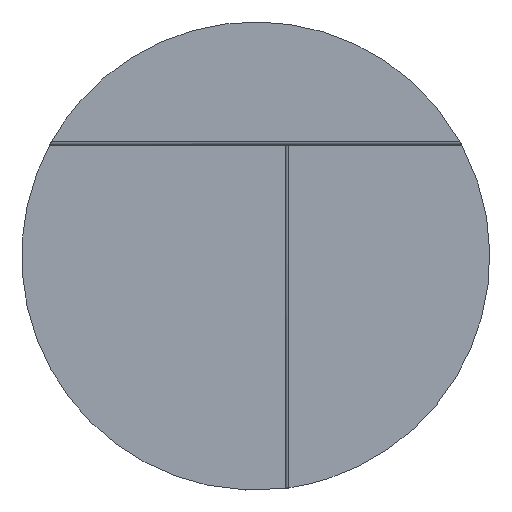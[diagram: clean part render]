
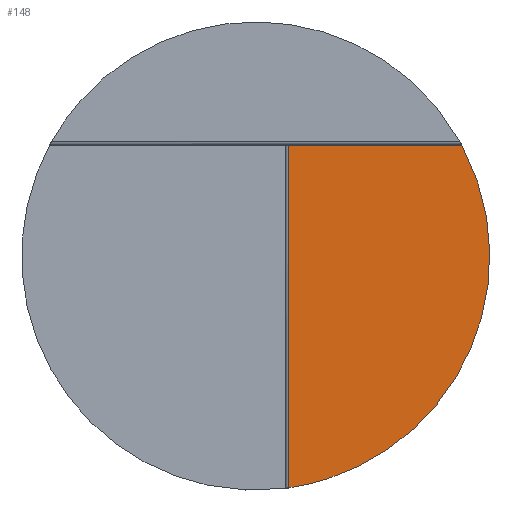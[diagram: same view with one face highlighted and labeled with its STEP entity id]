
A CAD part, top view. The second image highlights one B-rep face of the part: STEP entity #148.
In plain terms, the highlighted planar face has unit normal (0, 0, 1).
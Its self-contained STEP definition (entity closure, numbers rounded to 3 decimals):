
#148=ADVANCED_FACE('',(#253),#1800,.T.);
#253=FACE_OUTER_BOUND('',#378,.T.);
#378=EDGE_LOOP('',(#885,#886,#887,#888,#889,#890,#891,#892,#893,#894,#895));
#885=ORIENTED_EDGE('',*,*,#1168,.T.);
#886=ORIENTED_EDGE('',*,*,#1199,.F.);
#887=ORIENTED_EDGE('',*,*,#1196,.F.);
#888=ORIENTED_EDGE('',*,*,#1193,.F.);
#889=ORIENTED_EDGE('',*,*,#1190,.F.);
#890=ORIENTED_EDGE('',*,*,#1187,.F.);
#891=ORIENTED_EDGE('',*,*,#1184,.F.);
#892=ORIENTED_EDGE('',*,*,#1181,.F.);
#893=ORIENTED_EDGE('',*,*,#1178,.F.);
#894=ORIENTED_EDGE('',*,*,#1175,.F.);
#895=ORIENTED_EDGE('',*,*,#1201,.F.);
#1168=EDGE_CURVE('',#1657,#1660,#1454,.T.);
#1175=EDGE_CURVE('',#1662,#1664,#1460,.T.);
#1178=EDGE_CURVE('',#1664,#1666,#1463,.T.);
#1181=EDGE_CURVE('',#1666,#1668,#1466,.T.);
#1184=EDGE_CURVE('',#1668,#1670,#1469,.T.);
#1187=EDGE_CURVE('',#1670,#1672,#1472,.T.);
#1190=EDGE_CURVE('',#1672,#1674,#1475,.T.);
#1193=EDGE_CURVE('',#1674,#1676,#1478,.T.);
#1196=EDGE_CURVE('',#1676,#1678,#1481,.T.);
#1199=EDGE_CURVE('',#1678,#1660,#1484,.T.);
#1201=EDGE_CURVE('',#1657,#1662,#1486,.T.);
#1454=(
BOUNDED_CURVE()
B_SPLINE_CURVE(2,(#2977,#2978,#2979),.UNSPECIFIED.,.F.,.F.)
B_SPLINE_CURVE_WITH_KNOTS((3,3),(-1620.749,-1245.346),
 .UNSPECIFIED.)
CURVE()
GEOMETRIC_REPRESENTATION_ITEM()
RATIONAL_B_SPLINE_CURVE((1.,1.,1.))
REPRESENTATION_ITEM('')
);
#1460=(
BOUNDED_CURVE()
B_SPLINE_CURVE(2,(#2994,#2995,#2996),.UNSPECIFIED.,.F.,.F.)
B_SPLINE_CURVE_WITH_KNOTS((3,3),(-163.25,-157.75),.UNSPECIFIED.)
CURVE()
GEOMETRIC_REPRESENTATION_ITEM()
RATIONAL_B_SPLINE_CURVE((1.,1.,1.))
REPRESENTATION_ITEM('')
);
#1463=(
BOUNDED_CURVE()
B_SPLINE_CURVE(2,(#3002,#3003,#3004),.UNSPECIFIED.,.F.,.F.)
B_SPLINE_CURVE_WITH_KNOTS((3,3),(-157.75,-140.25),.UNSPECIFIED.)
CURVE()
GEOMETRIC_REPRESENTATION_ITEM()
RATIONAL_B_SPLINE_CURVE((1.,1.,1.))
REPRESENTATION_ITEM('')
);
#1466=(
BOUNDED_CURVE()
B_SPLINE_CURVE(2,(#3010,#3011,#3012),.UNSPECIFIED.,.F.,.F.)
B_SPLINE_CURVE_WITH_KNOTS((3,3),(-140.25,-134.75),.UNSPECIFIED.)
CURVE()
GEOMETRIC_REPRESENTATION_ITEM()
RATIONAL_B_SPLINE_CURVE((1.,1.,1.))
REPRESENTATION_ITEM('')
);
#1469=(
BOUNDED_CURVE()
B_SPLINE_CURVE(2,(#3018,#3019,#3020),.UNSPECIFIED.,.F.,.F.)
B_SPLINE_CURVE_WITH_KNOTS((3,3),(-134.75,-72.25),.UNSPECIFIED.)
CURVE()
GEOMETRIC_REPRESENTATION_ITEM()
RATIONAL_B_SPLINE_CURVE((1.,1.,1.))
REPRESENTATION_ITEM('')
);
#1472=(
BOUNDED_CURVE()
B_SPLINE_CURVE(2,(#3026,#3027,#3028),.UNSPECIFIED.,.F.,.F.)
B_SPLINE_CURVE_WITH_KNOTS((3,3),(-72.25,-66.75),.UNSPECIFIED.)
CURVE()
GEOMETRIC_REPRESENTATION_ITEM()
RATIONAL_B_SPLINE_CURVE((1.,1.,1.))
REPRESENTATION_ITEM('')
);
#1475=(
BOUNDED_CURVE()
B_SPLINE_CURVE(2,(#3034,#3035,#3036),.UNSPECIFIED.,.F.,.F.)
B_SPLINE_CURVE_WITH_KNOTS((3,3),(-66.75,-49.25),.UNSPECIFIED.)
CURVE()
GEOMETRIC_REPRESENTATION_ITEM()
RATIONAL_B_SPLINE_CURVE((1.,1.,1.))
REPRESENTATION_ITEM('')
);
#1478=(
BOUNDED_CURVE()
B_SPLINE_CURVE(2,(#3042,#3043,#3044),.UNSPECIFIED.,.F.,.F.)
B_SPLINE_CURVE_WITH_KNOTS((3,3),(-49.25,-43.75),.UNSPECIFIED.)
CURVE()
GEOMETRIC_REPRESENTATION_ITEM()
RATIONAL_B_SPLINE_CURVE((1.,1.,1.))
REPRESENTATION_ITEM('')
);
#1481=(
BOUNDED_CURVE()
B_SPLINE_CURVE(2,(#3050,#3051,#3052),.UNSPECIFIED.,.F.,.F.)
B_SPLINE_CURVE_WITH_KNOTS((3,3),(-43.75,0.),.UNSPECIFIED.)
CURVE()
GEOMETRIC_REPRESENTATION_ITEM()
RATIONAL_B_SPLINE_CURVE((1.,1.,1.))
REPRESENTATION_ITEM('')
);
#1484=(
BOUNDED_CURVE()
B_SPLINE_CURVE(2,(#3058,#3059,#3060,#3061,#3062),.UNSPECIFIED.,.F.,.F.)
B_SPLINE_CURVE_WITH_KNOTS((3,2,3),(0.,247.01,492.924),
 .UNSPECIFIED.)
CURVE()
GEOMETRIC_REPRESENTATION_ITEM()
RATIONAL_B_SPLINE_CURVE((1.,0.886,1.,0.887,1.))
REPRESENTATION_ITEM('')
);
#1486=(
BOUNDED_CURVE()
B_SPLINE_CURVE(2,(#3068,#3069,#3070),.UNSPECIFIED.,.F.,.F.)
B_SPLINE_CURVE_WITH_KNOTS((3,3),(-211.506,-163.25),
 .UNSPECIFIED.)
CURVE()
GEOMETRIC_REPRESENTATION_ITEM()
RATIONAL_B_SPLINE_CURVE((1.,1.,1.))
REPRESENTATION_ITEM('')
);
#1657=VERTEX_POINT('',#2894);
#1660=VERTEX_POINT('',#2897);
#1662=VERTEX_POINT('',#2899);
#1664=VERTEX_POINT('',#2901);
#1666=VERTEX_POINT('',#2903);
#1668=VERTEX_POINT('',#2905);
#1670=VERTEX_POINT('',#2907);
#1672=VERTEX_POINT('',#2909);
#1674=VERTEX_POINT('',#2911);
#1676=VERTEX_POINT('',#2913);
#1678=VERTEX_POINT('',#2915);
#1800=PLANE('',#2000);
#2000=AXIS2_PLACEMENT_3D('',#2868,#2108,$);
#2108=DIRECTION('',(0.,0.,1.));
#2868=CARTESIAN_POINT('',(284.159,-301.682,350.));
#2894=CARTESIAN_POINT('',(36.409,121.5,350.));
#2897=CARTESIAN_POINT('',(36.409,-253.903,350.));
#2899=CARTESIAN_POINT('',(84.664,121.5,350.));
#2901=CARTESIAN_POINT('',(84.664,127.,350.));
#2903=CARTESIAN_POINT('',(102.164,127.,350.));
#2905=CARTESIAN_POINT('',(102.164,121.5,350.));
#2907=CARTESIAN_POINT('',(164.664,121.5,350.));
#2909=CARTESIAN_POINT('',(164.664,127.,350.));
#2911=CARTESIAN_POINT('',(182.164,127.,350.));
#2913=CARTESIAN_POINT('',(182.164,121.5,350.));
#2915=CARTESIAN_POINT('',(225.914,121.5,350.));
#2977=CARTESIAN_POINT('',(36.409,121.5,350.));
#2978=CARTESIAN_POINT('',(36.409,-66.202,350.));
#2979=CARTESIAN_POINT('',(36.409,-253.903,350.));
#2994=CARTESIAN_POINT('',(84.664,121.5,350.));
#2995=CARTESIAN_POINT('',(84.664,124.25,350.));
#2996=CARTESIAN_POINT('',(84.664,127.,350.));
#3002=CARTESIAN_POINT('',(84.664,127.,350.));
#3003=CARTESIAN_POINT('',(93.414,127.,350.));
#3004=CARTESIAN_POINT('',(102.164,127.,350.));
#3010=CARTESIAN_POINT('',(102.164,127.,350.));
#3011=CARTESIAN_POINT('',(102.164,124.25,350.));
#3012=CARTESIAN_POINT('',(102.164,121.5,350.));
#3018=CARTESIAN_POINT('',(102.164,121.5,350.));
#3019=CARTESIAN_POINT('',(133.414,121.5,350.));
#3020=CARTESIAN_POINT('',(164.664,121.5,350.));
#3026=CARTESIAN_POINT('',(164.664,121.5,350.));
#3027=CARTESIAN_POINT('',(164.664,124.25,350.));
#3028=CARTESIAN_POINT('',(164.664,127.,350.));
#3034=CARTESIAN_POINT('',(164.664,127.,350.));
#3035=CARTESIAN_POINT('',(173.414,127.,350.));
#3036=CARTESIAN_POINT('',(182.164,127.,350.));
#3042=CARTESIAN_POINT('',(182.164,127.,350.));
#3043=CARTESIAN_POINT('',(182.164,124.25,350.));
#3044=CARTESIAN_POINT('',(182.164,121.5,350.));
#3050=CARTESIAN_POINT('',(182.164,121.5,350.));
#3051=CARTESIAN_POINT('',(204.039,121.5,350.));
#3052=CARTESIAN_POINT('',(225.914,121.5,350.));
#3058=CARTESIAN_POINT('',(225.914,121.5,350.));
#3059=CARTESIAN_POINT('',(289.399,3.463,350.));
#3060=CARTESIAN_POINT('',(228.756,-116.058,350.));
#3061=CARTESIAN_POINT('',(168.415,-234.982,350.));
#3062=CARTESIAN_POINT('',(36.409,-253.903,350.));
#3068=CARTESIAN_POINT('',(36.409,121.5,350.));
#3069=CARTESIAN_POINT('',(60.537,121.5,350.));
#3070=CARTESIAN_POINT('',(84.664,121.5,350.));
